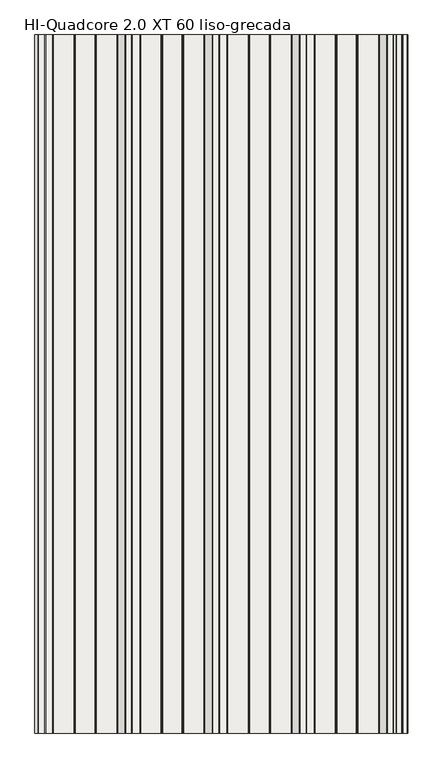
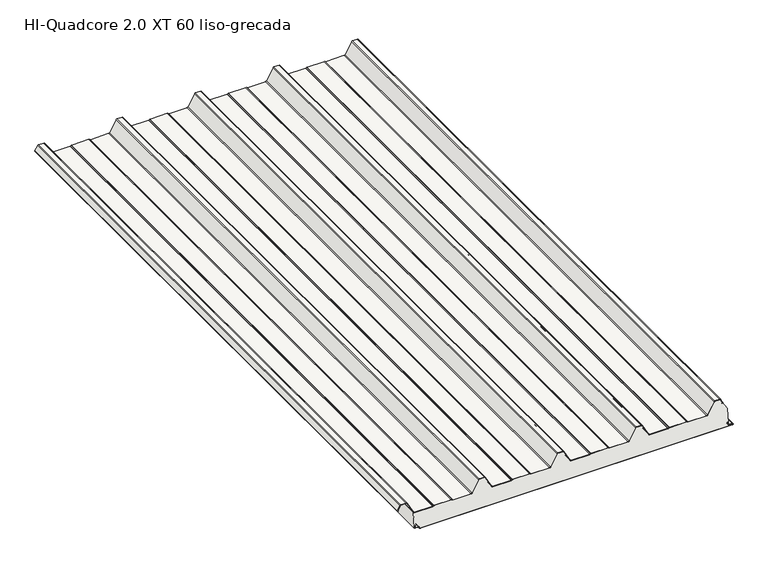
"""IFC4 building model written with IfcOpenShell, lengths in millimetres: slab geometry, HI_QuadCore2.0XT-XT DUAL : HI-Quadcore 2.0 XT 60 liso-grecada."""

from ifc_helpers import new_model, si_unit, point, frame, frame_2d, origin, place, context, project, spatial, polyline, circle_curve, trimmed, segment, composite_curve, outline, extrude, source, transform, mapped, element, save
from ifc_brep_helpers import plane_surface, cylinder_surface, revolved_surface, advanced_brep


def hi_quadcore_2_0_xt_60_liso_grecada_8b6392d8(model_context):
    return source(origin(), model_context, "Body", "SolidModel", [
        advanced_brep(
        [(1186.4313891, 0.0, 13.3795578), (1185.8456418, 0.0, 11.9654043), (1185.8456037, 0.0, 8.2995811), (1187.6996787, 0.0, 6.328543), (1198.1077232, 0.0, 5.5663871), (1199.9032632, 0.0, 3.5769209), (1199.9033076, 0.0, 1.9756011), (1201.903363, 0.0, -0.0243435), (2197.9162803, 0.0, 0.003269), (2199.9046779, 0.0, 2.0032908), (2199.904653, 0.0, 2.9012893), (2198.0077486, 0.0, 4.8985749), (2186.1928118, 0.0, 5.7933732), (2184.3438482, 0.0, 7.7876066), (2184.3437386, 0.0, 11.7402379), (2183.757913, 0.0, 13.1544352), (2182.3436602, 0.0, 14.5686095), (2181.7779748, 0.0, 14.0029241), (2183.1922433, 0.0, 12.5887341), (2183.5437386, 0.0, 11.7402157), (2183.5438482, 0.0, 7.7875844), (2186.1323972, 0.0, 4.9956577), (2197.958132, 0.0, 4.1000416), (2199.104653, 0.0, 2.9012672), (2199.1046779, 0.0, 2.0032686), (2197.9136554, 0.0, 0.8032689), (1201.9033408, 0.0, 0.7756565), (1200.7033076, 0.0, 1.9756233), (1200.7032632, 0.0, 3.5769431), (1198.1768616, 0.0, 6.3634663), (1187.7581044, 0.0, 7.1264067), (1186.6457428, 0.0, 8.3231689), (1186.6456418, 0.0, 11.965396), (1186.9970902, 0.0, 12.8138881), (1189.1032183, 0.0, 14.920133), (1188.5375329, 0.0, 15.4858184), (1186.4313891, 2000.0, 13.3795578), (1188.5375329, 2000.0, 15.4858184), (1189.1032183, 2000.0, 14.920133), (1186.9970902, 2000.0, 12.8138881), (1186.6456418, 2000.0, 11.965396), (1186.6456037, 2000.0, 8.2995728), (1187.7581044, 2000.0, 7.1264067), (1198.1768616, 2000.0, 6.3634663), (1200.7032632, 2000.0, 3.5769431), (1200.7033076, 2000.0, 1.9756233), (1201.9033408, 2000.0, 0.7756565), (2197.9136554, 2000.0, 0.8032689), (2199.1046779, 2000.0, 2.0032686), (2199.104653, 2000.0, 2.9012672), (2197.958132, 2000.0, 4.1000416), (2186.1323972, 2000.0, 4.9956577), (2183.5438482, 2000.0, 7.7875844), (2183.5437386, 2000.0, 11.7402157), (2183.1922433, 2000.0, 12.5887341), (2181.7779748, 2000.0, 14.0029241), (2182.3436602, 2000.0, 14.5686095), (2183.757913, 2000.0, 13.1544352), (2184.3437386, 2000.0, 11.7402379), (2184.3438482, 2000.0, 7.7876066), (2186.1928118, 2000.0, 5.7933732), (2198.0077486, 2000.0, 4.8985749), (2199.904653, 2000.0, 2.9012893), (2199.9046779, 2000.0, 2.0032908), (2197.9162803, 2000.0, 0.003269), (1201.903363, 2000.0, -0.0243435), (1199.9033076, 2000.0, 1.9756011), (1199.9032632, 2000.0, 3.5769209), (1198.1077232, 2000.0, 5.5663871), (1187.6996787, 2000.0, 6.328543), (1185.8457428, 2000.0, 8.3231467), (1185.8456418, 2000.0, 11.9654043)],
        [
            (0, 1, circle_curve(frame((1187.8456418, 0.0, 11.9653834), z_axis=(0.0, -1.0, 0.0), x_axis=(1.0, 0.0, 0.0)), 2.0)),
            (1, 2),
            (2, 3, circle_curve(frame((1187.8457428, 0.0, 8.3232022), z_axis=(0.0, -1.0, 0.0), x_axis=(1.0, 0.0, 0.0)), 2.0)),
            (3, 4),
            (4, 5, circle_curve(frame((1197.9032632, 0.0, 3.5768655), z_axis=(0.0, 1.0, 0.0), x_axis=(1.0, 0.0, 0.0)), 2.0)),
            (5, 6),
            (6, 7, circle_curve(frame((1201.9033076, 0.0, 1.9756565), z_axis=(0.0, -1.0, 0.0), x_axis=(1.0, 0.0, 0.0)), 2.0)),
            (7, 8),
            (8, 9, circle_curve(frame((2197.9046779, 0.0, 2.0032353), z_axis=(0.0, -1.0, 0.0), x_axis=(1.0, 0.0, 0.0)), 2.0)),
            (9, 10),
            (10, 11, circle_curve(frame((2197.904653, 0.0, 2.9012339), z_axis=(0.0, -1.0, 0.0), x_axis=(1.0, 0.0, 0.0)), 2.0)),
            (11, 12),
            (12, 13, circle_curve(frame((2186.3438482, 0.0, 7.7876621), z_axis=(0.0, 1.0, 0.0), x_axis=(1.0, 0.0, 0.0)), 2.0)),
            (13, 14),
            (14, 15, circle_curve(frame((2182.3437386, 0.0, 11.7401824), z_axis=(0.0, -1.0, 0.0), x_axis=(1.0, 0.0, 0.0)), 2.0)),
            (15, 16),
            (16, 17),
            (17, 18),
            (18, 19, circle_curve(frame((2182.3437386, 0.0, 11.7401824), z_axis=(0.0, 1.0, 0.0), x_axis=(1.0, 0.0, 0.0)), 1.2)),
            (19, 20),
            (20, 21, circle_curve(frame((2186.3438482, 0.0, 7.7876621), z_axis=(0.0, -1.0, 0.0), x_axis=(1.0, 0.0, 0.0)), 2.8)),
            (21, 22),
            (22, 23, circle_curve(frame((2197.904653, 0.0, 2.9012339), z_axis=(0.0, 1.0, 0.0), x_axis=(1.0, 0.0, 0.0)), 1.2)),
            (23, 24),
            (24, 25, circle_curve(frame((2197.9046779, 0.0, 2.0032353), z_axis=(0.0, 1.0, 0.0), x_axis=(1.0, 0.0, 0.0)), 1.2)),
            (25, 26),
            (26, 27, circle_curve(frame((1201.9033076, 0.0, 1.9756565), z_axis=(0.0, 1.0, 0.0), x_axis=(1.0, 0.0, 0.0)), 1.2)),
            (27, 28),
            (28, 29, circle_curve(frame((1197.9032632, 0.0, 3.5768655), z_axis=(0.0, -1.0, 0.0), x_axis=(1.0, 0.0, 0.0)), 2.8)),
            (29, 30),
            (30, 31, circle_curve(frame((1187.8457428, 0.0, 8.3232022), z_axis=(0.0, 1.0, 0.0), x_axis=(1.0, 0.0, 0.0)), 1.2)),
            (31, 32),
            (32, 33, circle_curve(frame((1187.8456418, 0.0, 11.9653834), z_axis=(0.0, 1.0, 0.0), x_axis=(1.0, 0.0, 0.0)), 1.2)),
            (33, 34),
            (34, 35),
            (35, 0),
            (36, 37),
            (37, 38),
            (38, 39),
            (39, 40, circle_curve(frame((1187.8456418, 2000.0, 11.9653834), z_axis=(0.0, -1.0, 0.0), x_axis=(1.0, 0.0, 0.0)), 1.2)),
            (40, 41),
            (41, 42, circle_curve(frame((1187.8457428, 2000.0, 8.3232022), z_axis=(0.0, -1.0, 0.0), x_axis=(1.0, 0.0, 0.0)), 1.2)),
            (42, 43),
            (43, 44, circle_curve(frame((1197.9032632, 2000.0, 3.5768655), z_axis=(0.0, 1.0, 0.0), x_axis=(1.0, 0.0, 0.0)), 2.8)),
            (44, 45),
            (45, 46, circle_curve(frame((1201.9033076, 2000.0, 1.9756565), z_axis=(0.0, -1.0, 0.0), x_axis=(1.0, 0.0, 0.0)), 1.2)),
            (46, 47),
            (47, 48, circle_curve(frame((2197.9046779, 2000.0, 2.0032353), z_axis=(0.0, -1.0, 0.0), x_axis=(1.0, 0.0, 0.0)), 1.2)),
            (48, 49),
            (49, 50, circle_curve(frame((2197.904653, 2000.0, 2.9012339), z_axis=(0.0, -1.0, 0.0), x_axis=(1.0, 0.0, 0.0)), 1.2)),
            (50, 51),
            (51, 52, circle_curve(frame((2186.3438482, 2000.0, 7.7876621), z_axis=(0.0, 1.0, 0.0), x_axis=(1.0, 0.0, 0.0)), 2.8)),
            (52, 53),
            (53, 54, circle_curve(frame((2182.3437386, 2000.0, 11.7401824), z_axis=(0.0, -1.0, 0.0), x_axis=(1.0, 0.0, 0.0)), 1.2)),
            (54, 55),
            (55, 56),
            (56, 57),
            (57, 58, circle_curve(frame((2182.3437386, 2000.0, 11.7401824), z_axis=(0.0, 1.0, 0.0), x_axis=(1.0, 0.0, 0.0)), 2.0)),
            (58, 59),
            (59, 60, circle_curve(frame((2186.3438482, 2000.0, 7.7876621), z_axis=(0.0, -1.0, 0.0), x_axis=(1.0, 0.0, 0.0)), 2.0)),
            (60, 61),
            (61, 62, circle_curve(frame((2197.904653, 2000.0, 2.9012339), z_axis=(0.0, 1.0, 0.0), x_axis=(1.0, 0.0, 0.0)), 2.0)),
            (62, 63),
            (63, 64, circle_curve(frame((2197.9046779, 2000.0, 2.0032353), z_axis=(0.0, 1.0, 0.0), x_axis=(1.0, 0.0, 0.0)), 2.0)),
            (64, 65),
            (65, 66, circle_curve(frame((1201.9033076, 2000.0, 1.9756565), z_axis=(0.0, 1.0, 0.0), x_axis=(1.0, 0.0, 0.0)), 2.0)),
            (66, 67),
            (67, 68, circle_curve(frame((1197.9032632, 2000.0, 3.5768655), z_axis=(0.0, -1.0, 0.0), x_axis=(1.0, 0.0, 0.0)), 2.0)),
            (68, 69),
            (69, 70, circle_curve(frame((1187.8457428, 2000.0, 8.3232022), z_axis=(0.0, 1.0, 0.0), x_axis=(1.0, 0.0, 0.0)), 2.0)),
            (70, 71),
            (71, 36, circle_curve(frame((1187.8456418, 2000.0, 11.9653834), z_axis=(0.0, 1.0, 0.0), x_axis=(1.0, 0.0, 0.0)), 2.0)),
            (0, 36),
            (71, 1),
            (70, 2),
            (69, 3),
            (68, 4),
            (67, 5),
            (66, 6),
            (65, 7),
            (64, 8),
            (63, 9),
            (62, 10),
            (61, 11),
            (60, 12),
            (59, 13),
            (58, 14),
            (57, 15),
            (56, 16),
            (55, 17),
            (54, 18),
            (53, 19),
            (52, 20),
            (51, 21),
            (50, 22),
            (49, 23),
            (48, 24),
            (47, 25),
            (46, 26),
            (45, 27),
            (44, 28),
            (43, 29),
            (42, 30),
            (41, 31),
            (40, 32),
            (39, 33),
            (38, 34),
            (37, 35),
        ],
        [
            plane_surface(frame((1189.8456418, 0.0, 11.9653834), z_axis=(0.0, -1.0, 0.0), x_axis=(0.0, 0.0, 1.0))),
            plane_surface(frame((1189.8456418, 2000.0, 11.9653834), z_axis=(0.0, 1.0, 0.0), x_axis=(0.0, 0.0, -1.0))),
            cylinder_surface(frame((1187.8456418, 2000.0, 11.9653834), z_axis=(0.0, -1.0, 0.0), x_axis=(1.0, 0.0, 0.0)), 2.0),
            plane_surface(frame((1185.8456418, 0.0, 11.9654043), z_axis=(-0.9999999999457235, 0.0, 1.041887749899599e-05), x_axis=(0.0, 1.0, 0.0))),
            cylinder_surface(frame((1187.8457428, 2000.0, 8.3232022), z_axis=(0.0, -1.0, 0.0), x_axis=(1.0, 0.0, 0.0)), 2.0),
            plane_surface(frame((1187.6996787, 0.0, 6.328543), z_axis=(-0.07303203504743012, 0.0, -0.9973295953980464), x_axis=(0.0, 1.0, 0.0))),
            revolved_surface(polyline([(1199.9032632, 2000.0, 3.5768655), (1199.9032632, 0.0, 3.5768655)]), (1197.9032632, 2000.0, 3.5768655), (0.0, 1.0, 0.0)),
            plane_surface(frame((1199.9032632, 0.0, 3.5769209), z_axis=(-0.9999999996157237, 0.0, -2.7722781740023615e-05), x_axis=(0.0, 1.0, 0.0))),
            cylinder_surface(frame((1201.9033076, 2000.0, 1.9756565), z_axis=(0.0, -1.0, 0.0), x_axis=(1.0, 0.0, 0.0)), 2.0),
            plane_surface(frame((1201.903363, 0.0, -0.0243435), z_axis=(2.772298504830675e-05, 0.0, -0.9999999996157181), x_axis=(0.0, 1.0, 0.0))),
            cylinder_surface(frame((2197.9046779, 2000.0, 2.0032353), z_axis=(0.0, -1.0, 0.0), x_axis=(1.0, 0.0, 0.0)), 2.0),
            plane_surface(frame((2199.9046779, 0.0, 2.0032908), z_axis=(0.9999999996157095, 0.0, 2.7723295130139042e-05), x_axis=(0.0, 1.0, 0.0))),
            cylinder_surface(frame((2197.904653, 2000.0, 2.9012339), z_axis=(0.0, -1.0, 0.0), x_axis=(1.0, 0.0, 0.0)), 2.0),
            plane_surface(frame((2198.0077486, 0.0, 4.8985749), z_axis=(0.07551822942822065, 0.0, 0.9971444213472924), x_axis=(0.0, 1.0, 0.0))),
            revolved_surface(polyline([(2188.3438482, 2000.0, 7.7876621), (2188.3438482, 0.0, 7.7876621)]), (2186.3438482, 2000.0, 7.7876621), (0.0, 1.0, 0.0)),
            plane_surface(frame((2184.3438482, 0.0, 7.7876066), z_axis=(0.9999999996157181, 0.0, 2.7722984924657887e-05), x_axis=(0.0, 1.0, 0.0))),
            cylinder_surface(frame((2182.3437386, 2000.0, 11.7401824), z_axis=(0.0, -1.0, 0.0), x_axis=(1.0, 0.0, 0.0)), 2.0),
            plane_surface(frame((2183.757913, 0.0, 13.1544352), z_axis=(0.7070871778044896, 0.0, 0.7071263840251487), x_axis=(0.0, 1.0, 0.0))),
            plane_surface(frame((2182.3436602, 0.0, 14.5686095), z_axis=(-0.7071067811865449, 0.0, 0.7071067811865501), x_axis=(0.0, 1.0, 0.0))),
            plane_surface(frame((2181.7779748, 0.0, 14.0029241), z_axis=(-0.7070871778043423, 0.0, -0.707126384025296), x_axis=(0.0, 1.0, 0.0))),
            revolved_surface(polyline([(2183.5437386, 2000.0, 11.7401824), (2183.5437386, 0.0, 11.7401824)]), (2182.3437386, 2000.0, 11.7401824), (0.0, 1.0, 0.0)),
            plane_surface(frame((2183.5437386, 0.0, 11.7402157), z_axis=(-0.9999999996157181, 0.0, -2.7722985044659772e-05), x_axis=(0.0, 1.0, 0.0))),
            cylinder_surface(frame((2186.3438482, 2000.0, 7.7876621), z_axis=(0.0, -1.0, 0.0), x_axis=(1.0, 0.0, 0.0)), 2.8),
            plane_surface(frame((2186.1323972, 0.0, 4.9956577), z_axis=(-0.07551822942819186, 0.0, -0.9971444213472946), x_axis=(0.0, 1.0, 0.0))),
            revolved_surface(polyline([(2199.104653, 2000.0, 2.9012339), (2199.104653, 0.0, 2.9012339)]), (2197.904653, 2000.0, 2.9012339), (0.0, 1.0, 0.0)),
            plane_surface(frame((2199.104653, 0.0, 2.9012672), z_axis=(-0.9999999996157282, 0.0, -2.7722622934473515e-05), x_axis=(0.0, 1.0, 0.0))),
            revolved_surface(polyline([(2199.1046779, 2000.0, 2.0032353), (2199.1046779, 0.0, 2.0032353)]), (2197.9046779, 2000.0, 2.0032353), (0.0, 1.0, 0.0)),
            plane_surface(frame((2197.9136554, 0.0, 0.8032689), z_axis=(-2.7722985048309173e-05, 0.0, 0.9999999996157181), x_axis=(0.0, 1.0, 0.0))),
            revolved_surface(polyline([(1203.1033076, 2000.0, 1.9756565), (1203.1033076, 0.0, 1.9756565)]), (1201.9033076, 2000.0, 1.9756565), (0.0, 1.0, 0.0)),
            plane_surface(frame((1200.7033076, 0.0, 1.9756233), z_axis=(0.9999999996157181, 0.0, 2.7722983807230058e-05), x_axis=(0.0, 1.0, 0.0))),
            cylinder_surface(frame((1197.9032632, 2000.0, 3.5768655), z_axis=(0.0, -1.0, 0.0), x_axis=(1.0, 0.0, 0.0)), 2.8),
            plane_surface(frame((1198.1768616, 0.0, 6.3634663), z_axis=(0.0730320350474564, 0.0, 0.9973295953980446), x_axis=(0.0, 1.0, 0.0))),
            revolved_surface(polyline([(1189.0457428, 2000.0, 8.3232022), (1189.0457428, 0.0, 8.3232022)]), (1187.8457428, 2000.0, 8.3232022), (0.0, 1.0, 0.0)),
            plane_surface(frame((1186.6456037, 0.0, 8.2995728), z_axis=(0.9999999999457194, 0.0, -1.0419274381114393e-05), x_axis=(0.0, 1.0, 0.0))),
            revolved_surface(polyline([(1189.0456418, 2000.0, 11.9653834), (1189.0456418, 0.0, 11.9653834)]), (1187.8456418, 2000.0, 11.9653834), (0.0, 1.0, 0.0)),
            plane_surface(frame((1186.9970902, 0.0, 12.8138881), z_axis=(0.7071263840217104, 0.0, -0.7070871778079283), x_axis=(0.0, 1.0, 0.0))),
            plane_surface(frame((1189.1032183, 0.0, 14.920133), z_axis=(0.7071067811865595, 0.0, 0.7071067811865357), x_axis=(0.0, 1.0, 0.0))),
            plane_surface(frame((1188.5375329, 0.0, 15.4858184), z_axis=(-0.7071263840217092, 0.0, 0.7070871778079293), x_axis=(0.0, 1.0, 0.0))),
        ],
        [
            (0, [[1, 2, 3, 4, 5, 6, 7, 8, 9, 10, 11, 12, 13, 14, 15, 16, 17, 18, 19, 20, 21, 22, 23, 24, 25, 26, 27, 28, 29, 30, 31, 32, 33, 34, 35, 36]]),
            (1, [[37, 38, 39, 40, 41, 42, 43, 44, 45, 46, 47, 48, 49, 50, 51, 52, 53, 54, 55, 56, 57, 58, 59, 60, 61, 62, 63, 64, 65, 66, 67, 68, 69, 70, 71, 72]]),
            (2, [[-1, 73, -72, 74]]),
            (3, [[-2, -74, -71, 75]]),
            (4, [[-3, -75, -70, 76]]),
            (5, [[-4, -76, -69, 77]]),
            (6, [[-5, -77, -68, 78]]),
            (7, [[-6, -78, -67, 79]]),
            (8, [[-7, -79, -66, 80]]),
            (9, [[-8, -80, -65, 81]]),
            (10, [[-9, -81, -64, 82]]),
            (11, [[-10, -82, -63, 83]]),
            (12, [[-11, -83, -62, 84]]),
            (13, [[-12, -84, -61, 85]]),
            (14, [[-13, -85, -60, 86]]),
            (15, [[-14, -86, -59, 87]]),
            (16, [[-15, -87, -58, 88]]),
            (17, [[-16, -88, -57, 89]]),
            (18, [[-17, -89, -56, 90]]),
            (19, [[-18, -90, -55, 91]]),
            (20, [[-19, -91, -54, 92]]),
            (21, [[-20, -92, -53, 93]]),
            (22, [[-21, -93, -52, 94]]),
            (23, [[-22, -94, -51, 95]]),
            (24, [[-23, -95, -50, 96]]),
            (25, [[-24, -96, -49, 97]]),
            (26, [[-25, -97, -48, 98]]),
            (27, [[-26, -98, -47, 99]]),
            (28, [[-27, -99, -46, 100]]),
            (29, [[-28, -100, -45, 101]]),
            (30, [[-29, -101, -44, 102]]),
            (31, [[-30, -102, -43, 103]]),
            (32, [[-31, -103, -42, 104]]),
            (33, [[-32, -104, -41, 105]]),
            (34, [[-33, -105, -40, 106]]),
            (35, [[-34, -106, -39, 107]]),
            (36, [[-35, -107, -38, 108]]),
            (37, [[-36, -108, -37, -73]]),
        ],
    ),
        extrude(outline(composite_curve([segment(polyline([(98.1649405, 1138.5141429), (83.6579587, 1130.3539656)]), True, "CONTINUOUS"), segment(trimmed(circle_curve(frame_2d((83.0451321, 1131.443435)), 1.25), [point((83.6579587, 1130.3539656))], [point((82.689225, 1132.6416963))], False, "CARTESIAN"), True, "CONTINUOUS"), segment(polyline([(82.689225, 1132.6416963), (85.7359115, 1133.437141), (85.9380053, 1132.663088), (82.9074492, 1131.8718547)]), True, "CONTINUOUS"), segment(trimmed(circle_curve(frame_2d((83.0451321, 1131.443435)), 0.45), [point((82.9074492, 1131.8718547))], [point((83.2657497, 1131.051226))], True, "CARTESIAN"), True, "CONTINUOUS"), segment(polyline([(83.2657497, 1131.051226), (97.7727315, 1139.2114033)]), True, "CONTINUOUS"), segment(trimmed(circle_curve(frame_2d((96.4, 1141.6518148)), 2.8), [point((97.7727315, 1139.2114033))], [point((99.2, 1141.6518148))], True, "CARTESIAN"), True, "CONTINUOUS"), segment(polyline([(99.2, 1141.6518148), (99.2, 1158.9311117)]), True, "CONTINUOUS"), segment(trimmed(circle_curve(frame_2d((96.4, 1158.9311117)), 2.8), [point((99.2, 1158.9311117))], [point((97.5457267, 1161.4859719))], True, "CARTESIAN"), True, "CONTINUOUS"), segment(polyline([(97.5457267, 1161.4859719), (61.2048889, 1181.3052775)]), True, "CONTINUOUS"), segment(trimmed(circle_curve(frame_2d((63.0, 1184.6545425)), 3.8), [point((61.2048889, 1181.3052775))], [point((59.2, 1184.6545425))], False, "CARTESIAN"), True, "CONTINUOUS"), segment(polyline([(59.2, 1184.6545425), (59.2, 1242.4489557)]), True, "CONTINUOUS"), segment(trimmed(circle_curve(frame_2d((63.0, 1242.4489557)), 3.8), [point((59.2, 1242.4489557))], [point((59.6973596, 1244.328468))], False, "CARTESIAN"), True, "CONTINUOUS"), segment(polyline([(59.6973596, 1244.328468), (60.912055, 1246.4629056)]), True, "CONTINUOUS"), segment(trimmed(circle_curve(frame_2d((59.0, 1247.5510443)), 2.2), [point((60.912055, 1246.4629056))], [point((61.2, 1247.5510443))], True, "CARTESIAN"), True, "CONTINUOUS"), segment(polyline([(61.2, 1247.5510443), (61.2, 1302.4489557)]), True, "CONTINUOUS"), segment(trimmed(circle_curve(frame_2d((59.0, 1302.4489557)), 2.2), [point((61.2, 1302.4489557))], [point((60.912055, 1303.5370944))], True, "CARTESIAN"), True, "CONTINUOUS"), segment(polyline([(60.912055, 1303.5370944), (59.6973596, 1305.671532)]), True, "CONTINUOUS"), segment(trimmed(circle_curve(frame_2d((63.0, 1307.5510443)), 3.8), [point((59.6973596, 1305.671532))], [point((59.2, 1307.5510443))], False, "CARTESIAN"), True, "CONTINUOUS"), segment(polyline([(59.2, 1307.5510443), (59.2, 1365.7454575)]), True, "CONTINUOUS"), segment(trimmed(circle_curve(frame_2d((63.0, 1365.7454575)), 3.8), [point((59.2, 1365.7454575))], [point((61.1370073, 1369.0574446))], False, "CARTESIAN"), True, "CONTINUOUS"), segment(polyline([(61.1370073, 1369.0574446), (98.0785747, 1389.8370763)]), True, "CONTINUOUS"), segment(trimmed(circle_curve(frame_2d((97.0, 1391.7545425)), 2.2), [point((98.0785747, 1389.8370763))], [point((99.2, 1391.7545425))], True, "CARTESIAN"), True, "CONTINUOUS"), segment(polyline([(99.2, 1391.7545425), (99.2, 1408.2454575)]), True, "CONTINUOUS"), segment(trimmed(circle_curve(frame_2d((97.0, 1408.2454575)), 2.2), [point((99.2, 1408.2454575))], [point((98.0785747, 1410.1629237))], True, "CARTESIAN"), True, "CONTINUOUS"), segment(polyline([(98.0785747, 1410.1629237), (61.1370073, 1430.9425554)]), True, "CONTINUOUS"), segment(trimmed(circle_curve(frame_2d((63.0, 1434.2545425)), 3.8), [point((61.1370073, 1430.9425554))], [point((59.2, 1434.2545425))], False, "CARTESIAN"), True, "CONTINUOUS"), segment(polyline([(59.2, 1434.2545425), (59.2, 1492.4489557)]), True, "CONTINUOUS"), segment(trimmed(circle_curve(frame_2d((63.0, 1492.4489557)), 3.8), [point((59.2, 1492.4489557))], [point((59.6973596, 1494.328468))], False, "CARTESIAN"), True, "CONTINUOUS"), segment(polyline([(59.6973596, 1494.328468), (60.912055, 1496.4629056)]), True, "CONTINUOUS"), segment(trimmed(circle_curve(frame_2d((59.0, 1497.5510443)), 2.2), [point((60.912055, 1496.4629056))], [point((61.2, 1497.5510443))], True, "CARTESIAN"), True, "CONTINUOUS"), segment(polyline([(61.2, 1497.5510443), (61.2, 1552.4489557)]), True, "CONTINUOUS"), segment(trimmed(circle_curve(frame_2d((59.0, 1552.4489557)), 2.2), [point((61.2, 1552.4489557))], [point((60.912055, 1553.5370944))], True, "CARTESIAN"), True, "CONTINUOUS"), segment(polyline([(60.912055, 1553.5370944), (59.6973596, 1555.671532)]), True, "CONTINUOUS"), segment(trimmed(circle_curve(frame_2d((63.0, 1557.5510443)), 3.8), [point((59.6973596, 1555.671532))], [point((59.2, 1557.5510443))], False, "CARTESIAN"), True, "CONTINUOUS"), segment(polyline([(59.2, 1557.5510443), (59.2, 1615.7454575)]), True, "CONTINUOUS"), segment(trimmed(circle_curve(frame_2d((63.0, 1615.7454575)), 3.8), [point((59.2, 1615.7454575))], [point((61.1370073, 1619.0574446))], False, "CARTESIAN"), True, "CONTINUOUS"), segment(polyline([(61.1370073, 1619.0574446), (98.0785747, 1639.8370763)]), True, "CONTINUOUS"), segment(trimmed(circle_curve(frame_2d((97.0, 1641.7545425)), 2.2), [point((98.0785747, 1639.8370763))], [point((99.2, 1641.7545425))], True, "CARTESIAN"), True, "CONTINUOUS"), segment(polyline([(99.2, 1641.7545425), (99.2, 1658.2454575)]), True, "CONTINUOUS"), segment(trimmed(circle_curve(frame_2d((97.0, 1658.2454575)), 2.2), [point((99.2, 1658.2454575))], [point((98.0785747, 1660.1629237))], True, "CARTESIAN"), True, "CONTINUOUS"), segment(polyline([(98.0785747, 1660.1629237), (61.1370073, 1680.9425554)]), True, "CONTINUOUS"), segment(trimmed(circle_curve(frame_2d((63.0, 1684.2545425)), 3.8), [point((61.1370073, 1680.9425554))], [point((59.2, 1684.2545425))], False, "CARTESIAN"), True, "CONTINUOUS"), segment(polyline([(59.2, 1684.2545425), (59.2, 1742.4489557)]), True, "CONTINUOUS"), segment(trimmed(circle_curve(frame_2d((63.0, 1742.4489557)), 3.8), [point((59.2, 1742.4489557))], [point((59.6973596, 1744.328468))], False, "CARTESIAN"), True, "CONTINUOUS"), segment(polyline([(59.6973596, 1744.328468), (60.912055, 1746.4629056)]), True, "CONTINUOUS"), segment(trimmed(circle_curve(frame_2d((59.0, 1747.5510443)), 2.2), [point((60.912055, 1746.4629056))], [point((61.2, 1747.5510443))], True, "CARTESIAN"), True, "CONTINUOUS"), segment(polyline([(61.2, 1747.5510443), (61.2, 1802.4489557)]), True, "CONTINUOUS"), segment(trimmed(circle_curve(frame_2d((59.0, 1802.4489557)), 2.2), [point((61.2, 1802.4489557))], [point((60.912055, 1803.5370944))], True, "CARTESIAN"), True, "CONTINUOUS"), segment(polyline([(60.912055, 1803.5370944), (59.6973596, 1805.671532)]), True, "CONTINUOUS"), segment(trimmed(circle_curve(frame_2d((63.0, 1807.5510443)), 3.8), [point((59.6973596, 1805.671532))], [point((59.2, 1807.5510443))], False, "CARTESIAN"), True, "CONTINUOUS"), segment(polyline([(59.2, 1807.5510443), (59.2, 1865.7454575)]), True, "CONTINUOUS"), segment(trimmed(circle_curve(frame_2d((63.0, 1865.7454575)), 3.8), [point((59.2, 1865.7454575))], [point((61.1370073, 1869.0574446))], False, "CARTESIAN"), True, "CONTINUOUS"), segment(polyline([(61.1370073, 1869.0574446), (98.0785747, 1889.8370763)]), True, "CONTINUOUS"), segment(trimmed(circle_curve(frame_2d((97.0, 1891.7545425)), 2.2), [point((98.0785747, 1889.8370763))], [point((99.2, 1891.7545425))], True, "CARTESIAN"), True, "CONTINUOUS"), segment(polyline([(99.2, 1891.7545425), (99.2, 1908.2454575)]), True, "CONTINUOUS"), segment(trimmed(circle_curve(frame_2d((97.0, 1908.2454575)), 2.2), [point((99.2, 1908.2454575))], [point((98.0785747, 1910.1629237))], True, "CARTESIAN"), True, "CONTINUOUS"), segment(polyline([(98.0785747, 1910.1629237), (61.1370073, 1930.9425554)]), True, "CONTINUOUS"), segment(trimmed(circle_curve(frame_2d((63.0, 1934.2545425)), 3.8), [point((61.1370073, 1930.9425554))], [point((59.2, 1934.2545425))], False, "CARTESIAN"), True, "CONTINUOUS"), segment(polyline([(59.2, 1934.2545425), (59.2, 1992.4489557)]), True, "CONTINUOUS"), segment(trimmed(circle_curve(frame_2d((63.0, 1992.4489557)), 3.8), [point((59.2, 1992.4489557))], [point((59.6973596, 1994.328468))], False, "CARTESIAN"), True, "CONTINUOUS"), segment(polyline([(59.6973596, 1994.328468), (60.912055, 1996.4629056)]), True, "CONTINUOUS"), segment(trimmed(circle_curve(frame_2d((59.0, 1997.5510443)), 2.2), [point((60.912055, 1996.4629056))], [point((61.2, 1997.5510443))], True, "CARTESIAN"), True, "CONTINUOUS"), segment(polyline([(61.2, 1997.5510443), (61.2, 2052.4489557)]), True, "CONTINUOUS"), segment(trimmed(circle_curve(frame_2d((59.0, 2052.4489557)), 2.2), [point((61.2, 2052.4489557))], [point((60.912055, 2053.5370944))], True, "CARTESIAN"), True, "CONTINUOUS"), segment(polyline([(60.912055, 2053.5370944), (59.6973596, 2055.671532)]), True, "CONTINUOUS"), segment(trimmed(circle_curve(frame_2d((63.0, 2057.5510443)), 3.8), [point((59.6973596, 2055.671532))], [point((59.2, 2057.5510443))], False, "CARTESIAN"), True, "CONTINUOUS"), segment(polyline([(59.2, 2057.5510443), (59.2, 2116.4208923)]), True, "CONTINUOUS"), segment(trimmed(circle_curve(frame_2d((63.0, 2116.4208923)), 3.8), [point((59.2, 2116.4208923))], [point((61.1583504, 2119.7447946))], False, "CARTESIAN"), True, "CONTINUOUS"), segment(polyline([(61.1583504, 2119.7447946), (98.0662182, 2140.1940602)]), True, "CONTINUOUS"), segment(trimmed(circle_curve(frame_2d((97.0, 2142.1184247)), 2.2), [point((98.0662182, 2140.1940602))], [point((99.2, 2142.1184247))], True, "CARTESIAN"), True, "CONTINUOUS"), segment(polyline([(99.2, 2142.1184247), (99.2, 2157.4945491)]), True, "CONTINUOUS"), segment(trimmed(circle_curve(frame_2d((97.0, 2157.4945491)), 2.2), [point((99.2, 2157.4945491))], [point((98.0785747, 2159.4120152))], True, "CARTESIAN"), True, "CONTINUOUS"), segment(polyline([(98.0785747, 2159.4120152), (87.5275176, 2165.3469849)]), True, "CONTINUOUS"), segment(trimmed(circle_curve(frame_2d((86.9392041, 2164.3010942)), 1.2), [point((87.5275176, 2165.3469849))], [point((86.3392623, 2165.3403583))], True, "CARTESIAN"), True, "CONTINUOUS"), segment(polyline([(86.3392623, 2165.3403583), (84.7281681, 2164.4103128), (84.3282068, 2165.1031555), (85.939301, 2166.033201)]), True, "CONTINUOUS"), segment(trimmed(circle_curve(frame_2d((86.9392041, 2164.3010942)), 2.0), [point((85.939301, 2166.033201))], [point((87.9197266, 2166.0442453))], False, "CARTESIAN"), True, "CONTINUOUS"), segment(polyline([(87.9197266, 2166.0442453), (98.4707837, 2160.1092757)]), True, "CONTINUOUS"), segment(trimmed(circle_curve(frame_2d((97.0, 2157.4945491)), 3.0), [point((98.4707837, 2160.1092757))], [point((100.0, 2157.4945491))], False, "CARTESIAN"), True, "CONTINUOUS"), segment(polyline([(100.0, 2157.4945491), (100.0, 2142.1184247)]), True, "CONTINUOUS"), segment(trimmed(circle_curve(frame_2d((97.0, 2142.1184247)), 3.0), [point((100.0, 2142.1184247))], [point((98.4539339, 2139.4942913))], False, "CARTESIAN"), True, "CONTINUOUS"), segment(polyline([(98.4539339, 2139.4942913), (61.5460661, 2119.0450257)]), True, "CONTINUOUS"), segment(trimmed(circle_curve(frame_2d((63.0, 2116.4208923)), 3.0), [point((61.5460661, 2119.0450257))], [point((60.0, 2116.4208923))], True, "CARTESIAN"), True, "CONTINUOUS"), segment(polyline([(60.0, 2116.4208923), (60.0, 2057.5510443)]), True, "CONTINUOUS"), segment(trimmed(circle_curve(frame_2d((63.0, 2057.5510443)), 3.0), [point((60.0, 2057.5510443))], [point((60.3926523, 2056.0672188))], True, "CARTESIAN"), True, "CONTINUOUS"), segment(polyline([(60.3926523, 2056.0672188), (61.6073477, 2053.9327812)]), True, "CONTINUOUS"), segment(trimmed(circle_curve(frame_2d((59.0, 2052.4489557)), 3.0), [point((61.6073477, 2053.9327812))], [point((62.0, 2052.4489557))], False, "CARTESIAN"), True, "CONTINUOUS"), segment(polyline([(62.0, 2052.4489557), (62.0, 1997.5510443)]), True, "CONTINUOUS"), segment(trimmed(circle_curve(frame_2d((59.0, 1997.5510443)), 3.0), [point((62.0, 1997.5510443))], [point((61.6073477, 1996.0672188))], False, "CARTESIAN"), True, "CONTINUOUS"), segment(polyline([(61.6073477, 1996.0672188), (60.3926523, 1993.9327812)]), True, "CONTINUOUS"), segment(trimmed(circle_curve(frame_2d((63.0, 1992.4489557)), 3.0), [point((60.3926523, 1993.9327812))], [point((60.0, 1992.4489557))], True, "CARTESIAN"), True, "CONTINUOUS"), segment(polyline([(60.0, 1992.4489557), (60.0, 1934.2545425)]), True, "CONTINUOUS"), segment(trimmed(circle_curve(frame_2d((63.0, 1934.2545425)), 3.0), [point((60.0, 1934.2545425))], [point((61.5292163, 1931.6398158))], True, "CARTESIAN"), True, "CONTINUOUS"), segment(polyline([(61.5292163, 1931.6398158), (98.4707837, 1910.8601842)]), True, "CONTINUOUS"), segment(trimmed(circle_curve(frame_2d((97.0, 1908.2454575)), 3.0), [point((98.4707837, 1910.8601842))], [point((100.0, 1908.2454575))], False, "CARTESIAN"), True, "CONTINUOUS"), segment(polyline([(100.0, 1908.2454575), (100.0, 1891.7545425)]), True, "CONTINUOUS"), segment(trimmed(circle_curve(frame_2d((97.0, 1891.7545425)), 3.0), [point((100.0, 1891.7545425))], [point((98.4707837, 1889.1398158))], False, "CARTESIAN"), True, "CONTINUOUS"), segment(polyline([(98.4707837, 1889.1398158), (61.5292163, 1868.3601842)]), True, "CONTINUOUS"), segment(trimmed(circle_curve(frame_2d((63.0, 1865.7454575)), 3.0), [point((61.5292163, 1868.3601842))], [point((60.0, 1865.7454575))], True, "CARTESIAN"), True, "CONTINUOUS"), segment(polyline([(60.0, 1865.7454575), (60.0, 1807.5510443)]), True, "CONTINUOUS"), segment(trimmed(circle_curve(frame_2d((63.0, 1807.5510443)), 3.0), [point((60.0, 1807.5510443))], [point((60.3926523, 1806.0672188))], True, "CARTESIAN"), True, "CONTINUOUS"), segment(polyline([(60.3926523, 1806.0672188), (61.6073477, 1803.9327812)]), True, "CONTINUOUS"), segment(trimmed(circle_curve(frame_2d((59.0, 1802.4489557)), 3.0), [point((61.6073477, 1803.9327812))], [point((62.0, 1802.4489557))], False, "CARTESIAN"), True, "CONTINUOUS"), segment(polyline([(62.0, 1802.4489557), (62.0, 1747.5510443)]), True, "CONTINUOUS"), segment(trimmed(circle_curve(frame_2d((59.0, 1747.5510443)), 3.0), [point((62.0, 1747.5510443))], [point((61.6073477, 1746.0672188))], False, "CARTESIAN"), True, "CONTINUOUS"), segment(polyline([(61.6073477, 1746.0672188), (60.3926523, 1743.9327812)]), True, "CONTINUOUS"), segment(trimmed(circle_curve(frame_2d((63.0, 1742.4489557)), 3.0), [point((60.3926523, 1743.9327812))], [point((60.0, 1742.4489557))], True, "CARTESIAN"), True, "CONTINUOUS"), segment(polyline([(60.0, 1742.4489557), (60.0, 1684.2545425)]), True, "CONTINUOUS"), segment(trimmed(circle_curve(frame_2d((63.0, 1684.2545425)), 3.0), [point((60.0, 1684.2545425))], [point((61.5292163, 1681.6398158))], True, "CARTESIAN"), True, "CONTINUOUS"), segment(polyline([(61.5292163, 1681.6398158), (98.4707837, 1660.8601842)]), True, "CONTINUOUS"), segment(trimmed(circle_curve(frame_2d((97.0, 1658.2454575)), 3.0), [point((98.4707837, 1660.8601842))], [point((100.0, 1658.2454575))], False, "CARTESIAN"), True, "CONTINUOUS"), segment(polyline([(100.0, 1658.2454575), (100.0, 1641.7545425)]), True, "CONTINUOUS"), segment(trimmed(circle_curve(frame_2d((97.0, 1641.7545425)), 3.0), [point((100.0, 1641.7545425))], [point((98.4707837, 1639.1398158))], False, "CARTESIAN"), True, "CONTINUOUS"), segment(polyline([(98.4707837, 1639.1398158), (61.5292163, 1618.3601842)]), True, "CONTINUOUS"), segment(trimmed(circle_curve(frame_2d((63.0, 1615.7454575)), 3.0), [point((61.5292163, 1618.3601842))], [point((60.0, 1615.7454575))], True, "CARTESIAN"), True, "CONTINUOUS"), segment(polyline([(60.0, 1615.7454575), (60.0, 1557.5510443)]), True, "CONTINUOUS"), segment(trimmed(circle_curve(frame_2d((63.0, 1557.5510443)), 3.0), [point((60.0, 1557.5510443))], [point((60.3926523, 1556.0672188))], True, "CARTESIAN"), True, "CONTINUOUS"), segment(polyline([(60.3926523, 1556.0672188), (61.6073477, 1553.9327812)]), True, "CONTINUOUS"), segment(trimmed(circle_curve(frame_2d((59.0, 1552.4489557)), 3.0), [point((61.6073477, 1553.9327812))], [point((62.0, 1552.4489557))], False, "CARTESIAN"), True, "CONTINUOUS"), segment(polyline([(62.0, 1552.4489557), (62.0, 1497.5510443)]), True, "CONTINUOUS"), segment(trimmed(circle_curve(frame_2d((59.0, 1497.5510443)), 3.0), [point((62.0, 1497.5510443))], [point((61.6073477, 1496.0672188))], False, "CARTESIAN"), True, "CONTINUOUS"), segment(polyline([(61.6073477, 1496.0672188), (60.3926523, 1493.9327812)]), True, "CONTINUOUS"), segment(trimmed(circle_curve(frame_2d((63.0, 1492.4489557)), 3.0), [point((60.3926523, 1493.9327812))], [point((60.0, 1492.4489557))], True, "CARTESIAN"), True, "CONTINUOUS"), segment(polyline([(60.0, 1492.4489557), (60.0, 1434.2545425)]), True, "CONTINUOUS"), segment(trimmed(circle_curve(frame_2d((63.0, 1434.2545425)), 3.0), [point((60.0, 1434.2545425))], [point((61.5292163, 1431.6398158))], True, "CARTESIAN"), True, "CONTINUOUS"), segment(polyline([(61.5292163, 1431.6398158), (98.4707837, 1410.8601842)]), True, "CONTINUOUS"), segment(trimmed(circle_curve(frame_2d((97.0, 1408.2454575)), 3.0), [point((98.4707837, 1410.8601842))], [point((100.0, 1408.2454575))], False, "CARTESIAN"), True, "CONTINUOUS"), segment(polyline([(100.0, 1408.2454575), (100.0, 1391.7545425)]), True, "CONTINUOUS"), segment(trimmed(circle_curve(frame_2d((97.0, 1391.7545425)), 3.0), [point((100.0, 1391.7545425))], [point((98.4707837, 1389.1398158))], False, "CARTESIAN"), True, "CONTINUOUS"), segment(polyline([(98.4707837, 1389.1398158), (61.5292163, 1368.3601842)]), True, "CONTINUOUS"), segment(trimmed(circle_curve(frame_2d((63.0, 1365.7454575)), 3.0), [point((61.5292163, 1368.3601842))], [point((60.0, 1365.7454575))], True, "CARTESIAN"), True, "CONTINUOUS"), segment(polyline([(60.0, 1365.7454575), (60.0, 1307.5510443)]), True, "CONTINUOUS"), segment(trimmed(circle_curve(frame_2d((63.0, 1307.5510443)), 3.0), [point((60.0, 1307.5510443))], [point((60.3926523, 1306.0672188))], True, "CARTESIAN"), True, "CONTINUOUS"), segment(polyline([(60.3926523, 1306.0672188), (61.6073477, 1303.9327812)]), True, "CONTINUOUS"), segment(trimmed(circle_curve(frame_2d((59.0, 1302.4489557)), 3.0), [point((61.6073477, 1303.9327812))], [point((62.0, 1302.4489557))], False, "CARTESIAN"), True, "CONTINUOUS"), segment(polyline([(62.0, 1302.4489557), (62.0, 1247.5510443)]), True, "CONTINUOUS"), segment(trimmed(circle_curve(frame_2d((59.0, 1247.5510443)), 3.0), [point((62.0, 1247.5510443))], [point((61.6073477, 1246.0672188))], False, "CARTESIAN"), True, "CONTINUOUS"), segment(polyline([(61.6073477, 1246.0672188), (60.3926523, 1243.9327812)]), True, "CONTINUOUS"), segment(trimmed(circle_curve(frame_2d((63.0, 1242.4489557)), 3.0), [point((60.3926523, 1243.9327812))], [point((60.0, 1242.4489557))], True, "CARTESIAN"), True, "CONTINUOUS"), segment(polyline([(60.0, 1242.4489557), (60.0, 1184.6545425)]), True, "CONTINUOUS"), segment(trimmed(circle_curve(frame_2d((63.0, 1184.6545425)), 3.0), [point((60.0, 1184.6545425))], [point((61.5852209, 1182.0090935))], True, "CARTESIAN"), True, "CONTINUOUS"), segment(polyline([(61.5852209, 1182.0090935), (97.9031732, 1162.2022691)]), True, "CONTINUOUS"), segment(trimmed(circle_curve(frame_2d((96.4, 1158.9311117)), 3.6), [point((97.9031732, 1162.2022691))], [point((100.0, 1158.9311117))], False, "CARTESIAN"), True, "CONTINUOUS"), segment(polyline([(100.0, 1158.9311117), (100.0, 1141.6518148)]), True, "CONTINUOUS"), segment(trimmed(circle_curve(frame_2d((96.4, 1141.6518148)), 3.6), [point((100.0, 1141.6518148))], [point((98.1649405, 1138.5141429))], False, "CARTESIAN"), True, "CONTINUOUS")], self_intersect=False)), frame((0.0, 0.0, 0.0), z_axis=(0.0, 1.0, 0.0), x_axis=(0.0, 0.0, 1.0)), (0.0, 0.0, 1.0), 2000.0),
        extrude(outline(composite_curve([segment(polyline([(61.2667387, 2181.036551), (87.9197266, 2166.0442453)]), True, "CONTINUOUS"), segment(trimmed(circle_curve(frame_2d((86.9392041, 2164.3010942)), 2.0), [point((87.9197266, 2166.0442453))], [point((85.939301, 2166.033201))], True, "CARTESIAN"), True, "CONTINUOUS"), segment(polyline([(85.939301, 2166.033201), (84.3282068, 2165.1031555), (84.7281681, 2164.4103128), (86.3392623, 2165.3403583)]), True, "CONTINUOUS"), segment(trimmed(circle_curve(frame_2d((86.9392041, 2164.3010942)), 1.2), [point((86.3392623, 2165.3403583))], [point((87.5275176, 2165.3469849))], False, "CARTESIAN"), True, "CONTINUOUS"), segment(polyline([(87.5275176, 2165.3469849), (98.0785747, 2159.4120152)]), True, "CONTINUOUS"), segment(trimmed(circle_curve(frame_2d((97.0, 2157.4945491)), 2.2), [point((98.0785747, 2159.4120152))], [point((99.2, 2157.4945491))], False, "CARTESIAN"), True, "CONTINUOUS"), segment(polyline([(99.2, 2157.4945491), (99.2, 2142.1184247)]), True, "CONTINUOUS"), segment(trimmed(circle_curve(frame_2d((97.0, 2142.1184247)), 2.2), [point((99.2, 2142.1184247))], [point((98.0662182, 2140.1940602))], False, "CARTESIAN"), True, "CONTINUOUS"), segment(polyline([(98.0662182, 2140.1940602), (61.1583504, 2119.7447946)]), True, "CONTINUOUS"), segment(trimmed(circle_curve(frame_2d((63.0, 2116.4208923)), 3.8), [point((61.1583504, 2119.7447946))], [point((59.2, 2116.4208923))], True, "CARTESIAN"), True, "CONTINUOUS"), segment(polyline([(59.2, 2116.4208923), (59.2, 2057.5510443)]), True, "CONTINUOUS"), segment(trimmed(circle_curve(frame_2d((63.0, 2057.5510443)), 3.8), [point((59.2, 2057.5510443))], [point((59.6973596, 2055.671532))], True, "CARTESIAN"), True, "CONTINUOUS"), segment(polyline([(59.6973596, 2055.671532), (60.912055, 2053.5370944)]), True, "CONTINUOUS"), segment(trimmed(circle_curve(frame_2d((59.0, 2052.4489557)), 2.2), [point((60.912055, 2053.5370944))], [point((61.2, 2052.4489557))], False, "CARTESIAN"), True, "CONTINUOUS"), segment(polyline([(61.2, 2052.4489557), (61.2, 1997.5510443)]), True, "CONTINUOUS"), segment(trimmed(circle_curve(frame_2d((59.0, 1997.5510443)), 2.2), [point((61.2, 1997.5510443))], [point((60.912055, 1996.4629056))], False, "CARTESIAN"), True, "CONTINUOUS"), segment(polyline([(60.912055, 1996.4629056), (59.6973596, 1994.328468)]), True, "CONTINUOUS"), segment(trimmed(circle_curve(frame_2d((63.0, 1992.4489557)), 3.8), [point((59.6973596, 1994.328468))], [point((59.2, 1992.4489557))], True, "CARTESIAN"), True, "CONTINUOUS"), segment(polyline([(59.2, 1992.4489557), (59.2, 1934.2545425)]), True, "CONTINUOUS"), segment(trimmed(circle_curve(frame_2d((63.0, 1934.2545425)), 3.8), [point((59.2, 1934.2545425))], [point((61.1370073, 1930.9425554))], True, "CARTESIAN"), True, "CONTINUOUS"), segment(polyline([(61.1370073, 1930.9425554), (98.0785747, 1910.1629237)]), True, "CONTINUOUS"), segment(trimmed(circle_curve(frame_2d((97.0, 1908.2454575)), 2.2), [point((98.0785747, 1910.1629237))], [point((99.2, 1908.2454575))], False, "CARTESIAN"), True, "CONTINUOUS"), segment(polyline([(99.2, 1908.2454575), (99.2, 1891.7545425)]), True, "CONTINUOUS"), segment(trimmed(circle_curve(frame_2d((97.0, 1891.7545425)), 2.2), [point((99.2, 1891.7545425))], [point((98.0785747, 1889.8370763))], False, "CARTESIAN"), True, "CONTINUOUS"), segment(polyline([(98.0785747, 1889.8370763), (61.1370073, 1869.0574446)]), True, "CONTINUOUS"), segment(trimmed(circle_curve(frame_2d((63.0, 1865.7454575)), 3.8), [point((61.1370073, 1869.0574446))], [point((59.2, 1865.7454575))], True, "CARTESIAN"), True, "CONTINUOUS"), segment(polyline([(59.2, 1865.7454575), (59.2, 1807.5510443)]), True, "CONTINUOUS"), segment(trimmed(circle_curve(frame_2d((63.0, 1807.5510443)), 3.8), [point((59.2, 1807.5510443))], [point((59.6973596, 1805.671532))], True, "CARTESIAN"), True, "CONTINUOUS"), segment(polyline([(59.6973596, 1805.671532), (60.912055, 1803.5370944)]), True, "CONTINUOUS"), segment(trimmed(circle_curve(frame_2d((59.0, 1802.4489557)), 2.2), [point((60.912055, 1803.5370944))], [point((61.2, 1802.4489557))], False, "CARTESIAN"), True, "CONTINUOUS"), segment(polyline([(61.2, 1802.4489557), (61.2, 1747.5510443)]), True, "CONTINUOUS"), segment(trimmed(circle_curve(frame_2d((59.0, 1747.5510443)), 2.2), [point((61.2, 1747.5510443))], [point((60.912055, 1746.4629056))], False, "CARTESIAN"), True, "CONTINUOUS"), segment(polyline([(60.912055, 1746.4629056), (59.6973596, 1744.328468)]), True, "CONTINUOUS"), segment(trimmed(circle_curve(frame_2d((63.0, 1742.4489557)), 3.8), [point((59.6973596, 1744.328468))], [point((59.2, 1742.4489557))], True, "CARTESIAN"), True, "CONTINUOUS"), segment(polyline([(59.2, 1742.4489557), (59.2, 1684.2545425)]), True, "CONTINUOUS"), segment(trimmed(circle_curve(frame_2d((63.0, 1684.2545425)), 3.8), [point((59.2, 1684.2545425))], [point((61.1370073, 1680.9425554))], True, "CARTESIAN"), True, "CONTINUOUS"), segment(polyline([(61.1370073, 1680.9425554), (98.0785747, 1660.1629237)]), True, "CONTINUOUS"), segment(trimmed(circle_curve(frame_2d((97.0, 1658.2454575)), 2.2), [point((98.0785747, 1660.1629237))], [point((99.2, 1658.2454575))], False, "CARTESIAN"), True, "CONTINUOUS"), segment(polyline([(99.2, 1658.2454575), (99.2, 1641.7545425)]), True, "CONTINUOUS"), segment(trimmed(circle_curve(frame_2d((97.0, 1641.7545425)), 2.2), [point((99.2, 1641.7545425))], [point((98.0785747, 1639.8370763))], False, "CARTESIAN"), True, "CONTINUOUS"), segment(polyline([(98.0785747, 1639.8370763), (61.1370073, 1619.0574446)]), True, "CONTINUOUS"), segment(trimmed(circle_curve(frame_2d((63.0, 1615.7454575)), 3.8), [point((61.1370073, 1619.0574446))], [point((59.2, 1615.7454575))], True, "CARTESIAN"), True, "CONTINUOUS"), segment(polyline([(59.2, 1615.7454575), (59.2, 1557.5510443)]), True, "CONTINUOUS"), segment(trimmed(circle_curve(frame_2d((63.0, 1557.5510443)), 3.8), [point((59.2, 1557.5510443))], [point((59.6973596, 1555.671532))], True, "CARTESIAN"), True, "CONTINUOUS"), segment(polyline([(59.6973596, 1555.671532), (60.912055, 1553.5370944)]), True, "CONTINUOUS"), segment(trimmed(circle_curve(frame_2d((59.0, 1552.4489557)), 2.2), [point((60.912055, 1553.5370944))], [point((61.2, 1552.4489557))], False, "CARTESIAN"), True, "CONTINUOUS"), segment(polyline([(61.2, 1552.4489557), (61.2, 1497.5510443)]), True, "CONTINUOUS"), segment(trimmed(circle_curve(frame_2d((59.0, 1497.5510443)), 2.2), [point((61.2, 1497.5510443))], [point((60.912055, 1496.4629056))], False, "CARTESIAN"), True, "CONTINUOUS"), segment(polyline([(60.912055, 1496.4629056), (59.6973596, 1494.328468)]), True, "CONTINUOUS"), segment(trimmed(circle_curve(frame_2d((63.0, 1492.4489557)), 3.8), [point((59.6973596, 1494.328468))], [point((59.2, 1492.4489557))], True, "CARTESIAN"), True, "CONTINUOUS"), segment(polyline([(59.2, 1492.4489557), (59.2, 1434.2545425)]), True, "CONTINUOUS"), segment(trimmed(circle_curve(frame_2d((63.0, 1434.2545425)), 3.8), [point((59.2, 1434.2545425))], [point((61.1370073, 1430.9425554))], True, "CARTESIAN"), True, "CONTINUOUS"), segment(polyline([(61.1370073, 1430.9425554), (98.0785747, 1410.1629237)]), True, "CONTINUOUS"), segment(trimmed(circle_curve(frame_2d((97.0, 1408.2454575)), 2.2), [point((98.0785747, 1410.1629237))], [point((99.2, 1408.2454575))], False, "CARTESIAN"), True, "CONTINUOUS"), segment(polyline([(99.2, 1408.2454575), (99.2, 1391.7545425)]), True, "CONTINUOUS"), segment(trimmed(circle_curve(frame_2d((97.0, 1391.7545425)), 2.2), [point((99.2, 1391.7545425))], [point((98.0785747, 1389.8370763))], False, "CARTESIAN"), True, "CONTINUOUS"), segment(polyline([(98.0785747, 1389.8370763), (61.1370073, 1369.0574446)]), True, "CONTINUOUS"), segment(trimmed(circle_curve(frame_2d((63.0, 1365.7454575)), 3.8), [point((61.1370073, 1369.0574446))], [point((59.2, 1365.7454575))], True, "CARTESIAN"), True, "CONTINUOUS"), segment(polyline([(59.2, 1365.7454575), (59.2, 1307.5510443)]), True, "CONTINUOUS"), segment(trimmed(circle_curve(frame_2d((63.0, 1307.5510443)), 3.8), [point((59.2, 1307.5510443))], [point((59.6973596, 1305.671532))], True, "CARTESIAN"), True, "CONTINUOUS"), segment(polyline([(59.6973596, 1305.671532), (60.912055, 1303.5370944)]), True, "CONTINUOUS"), segment(trimmed(circle_curve(frame_2d((59.0, 1302.4489557)), 2.2), [point((60.912055, 1303.5370944))], [point((61.2, 1302.4489557))], False, "CARTESIAN"), True, "CONTINUOUS"), segment(polyline([(61.2, 1302.4489557), (61.2, 1247.5510443)]), True, "CONTINUOUS"), segment(trimmed(circle_curve(frame_2d((59.0, 1247.5510443)), 2.2), [point((61.2, 1247.5510443))], [point((60.912055, 1246.4629056))], False, "CARTESIAN"), True, "CONTINUOUS"), segment(polyline([(60.912055, 1246.4629056), (59.6973596, 1244.328468)]), True, "CONTINUOUS"), segment(trimmed(circle_curve(frame_2d((63.0, 1242.4489557)), 3.8), [point((59.6973596, 1244.328468))], [point((59.2, 1242.4489557))], True, "CARTESIAN"), True, "CONTINUOUS"), segment(polyline([(59.2, 1242.4489557), (59.2, 1184.6545425)]), True, "CONTINUOUS"), segment(trimmed(circle_curve(frame_2d((63.0, 1184.6545425)), 3.8), [point((59.2, 1184.6545425))], [point((61.2048889, 1181.3052775))], True, "CARTESIAN"), True, "CONTINUOUS"), segment(polyline([(61.2048889, 1181.3052775), (7.0308356, 1184.4622222), (7.2414508, 1185.8457731), (11.9758654, 1185.8456417)]), True, "CONTINUOUS"), segment(trimmed(circle_curve(frame_2d((11.9759204, 1187.8456417)), 1.9999999), [point((11.9758654, 1185.8456417))], [point((13.3900949, 1186.4313891))], True, "CARTESIAN"), True, "CONTINUOUS"), segment(polyline([(13.3900949, 1186.4313891), (15.4963556, 1188.5375329), (14.9306702, 1189.1032183), (12.8244255, 1186.99709)]), True, "CONTINUOUS"), segment(trimmed(circle_curve(frame_2d((11.9759204, 1187.8456417)), 1.2000003), [point((12.8244255, 1186.99709))], [point((11.9771122, 1186.645642))], False, "CARTESIAN"), True, "CONTINUOUS"), segment(polyline([(11.9771122, 1186.645642), (8.3337062, 1186.6457428)]), True, "CONTINUOUS"), segment(trimmed(circle_curve(frame_2d((8.3337394, 1187.8457428)), 1.2), [point((8.3337062, 1186.6457428))], [point((7.1369439, 1187.7581044))], False, "CARTESIAN"), True, "CONTINUOUS"), segment(polyline([(7.1369439, 1187.7581044), (6.3740035, 1198.1768616)]), True, "CONTINUOUS"), segment(trimmed(circle_curve(frame_2d((3.5874027, 1197.9032632)), 2.8), [point((6.3740035, 1198.1768616))], [point((3.5874804, 1200.7032632))], True, "CARTESIAN"), True, "CONTINUOUS"), segment(polyline([(3.5874804, 1200.7032632), (1.9756233, 1200.7033079)]), True, "CONTINUOUS"), segment(trimmed(circle_curve(frame_2d((1.9756562, 1201.9033076)), 1.1999997), [point((1.9756233, 1200.7033079))], [point((0.7756565, 1201.9033408))], False, "CARTESIAN"), True, "CONTINUOUS"), segment(polyline([(0.7756565, 1201.9033408), (0.8032689, 2197.9136557)]), True, "CONTINUOUS"), segment(trimmed(circle_curve(frame_2d((2.0032353, 2197.9046782)), 1.2), [point((0.8032689, 2197.9136557))], [point((2.0032686, 2199.1046782))], False, "CARTESIAN"), True, "CONTINUOUS"), segment(polyline([(2.0032686, 2199.1046782), (2.9118044, 2199.104653)]), True, "CONTINUOUS"), segment(trimmed(circle_curve(frame_2d((2.9117711, 2197.9046533)), 1.1999997), [point((2.9118044, 2199.104653))], [point((4.1105786, 2197.9581323))], False, "CARTESIAN"), True, "CONTINUOUS"), segment(polyline([(4.1105786, 2197.9581323), (5.0061949, 2186.1323972)]), True, "CONTINUOUS"), segment(trimmed(circle_curve(frame_2d((7.7981993, 2186.3438482)), 2.8), [point((5.0061949, 2186.1323972))], [point((7.7981217, 2183.5438482))], True, "CARTESIAN"), True, "CONTINUOUS"), segment(polyline([(7.7981217, 2183.5438482), (11.7460458, 2183.5455151)]), True, "CONTINUOUS"), segment(trimmed(circle_curve(frame_2d((11.7411592, 2182.3429645)), 1.2025605), [point((11.7460458, 2183.5455151))], [point((12.5937174, 2183.1910778))], False, "CARTESIAN"), True, "CONTINUOUS"), segment(polyline([(12.5937174, 2183.1910778), (14.0134457, 2181.7779905), (14.5791311, 2182.3436759), (13.1649724, 2183.757913), (61.2667387, 2181.036551)]), True, "CONTINUOUS")], self_intersect=False)), frame((0.0, 0.0, 0.0), z_axis=(0.0, 1.0, 0.0), x_axis=(0.0, 0.0, 1.0)), (0.0, 0.0, 1.0), 2000.0),
    ])


if __name__ == "__main__":
    model = new_model("IFC4")
    model_context = context("Model", 3, world=origin())
    ifc_project = project(units=[si_unit("LENGTHUNIT", "METRE", prefix="MILLI")], contexts=[model_context])
    site = spatial("IfcSite", under=ifc_project)
    building = spatial("IfcBuilding", under=site)
    placement = place(None, origin())
    hi_quadcore_2_0_xt_60_liso_grecada_shape = hi_quadcore_2_0_xt_60_liso_grecada_8b6392d8(model_context)
    element("IfcSlab", 1, ObjectType="HI_QuadCore2.0XT-XT DUAL : HI-Quadcore 2.0 XT 60 liso-grecada", at=placement, inside=building, context=model_context, shape_type="MappedRepresentation", body=[
        mapped(hi_quadcore_2_0_xt_60_liso_grecada_shape, transform((0.0, 0.0, 0.0), x_axis=(1.0, 0.0, 0.0), y_axis=(0.0, 1.0, 0.0), z_axis=(0.0, 0.0, 1.0))),
    ])
    save(model, "model.ifc")
